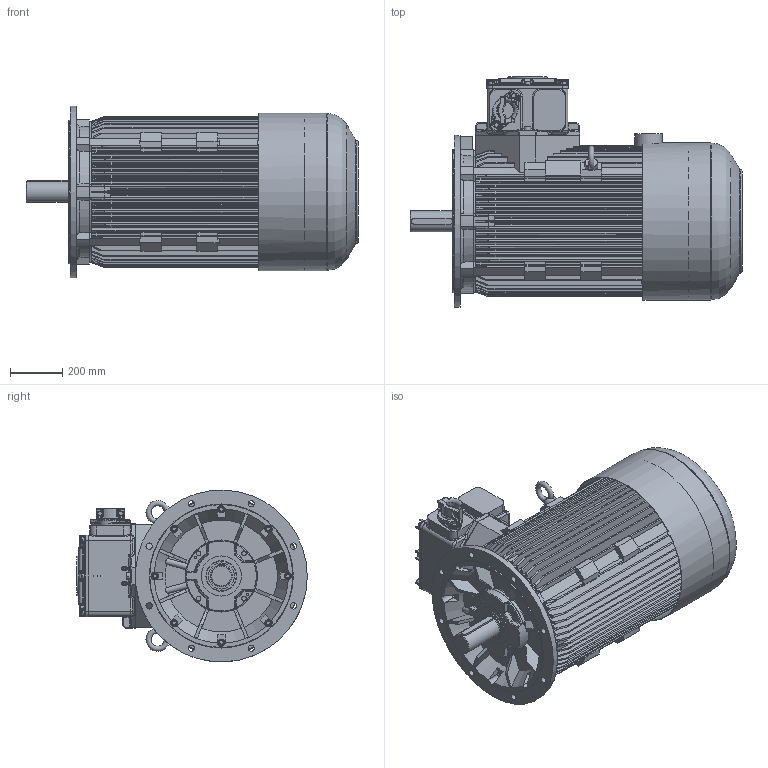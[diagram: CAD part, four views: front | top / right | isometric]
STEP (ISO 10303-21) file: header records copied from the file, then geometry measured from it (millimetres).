
FILE_DESCRIPTION(/* description */ ('Unknown'),/* implementation_level */ '2;1');
FILE_NAME(/* name */ 'EcSTKe(b)315S(4,6,8), M(6,8)A-N-IE(2,3)',/* time_stamp */ '2022-04-19T14:25:30+02:00',/* author */ ('Unknown'),/* organization */ ('Unknown'),/* preprocessor_version */ 'ST-DEVELOPER v16.7',/* originating_system */ 'DEX',/* authorisation */ $);
FILE_SCHEMA (('AUTOMOTIVE_DESIGN {1 0 10303 214 3 1 1}'));
Products named in the file (1): EcSTKe(b)315S(4,6,8), M(6,8)A-N-IE(2,3)
Bounding box: 1274.52 x 885 x 659.67 mm (x, y, z)
Volume: 273487755.6 mm3; surface area: 7495539.6 mm2
Topology: 1 solids, 57 shells, 3077 faces, 7824 edges, 4892 vertices
Faces by surface type: plane 1242, cylinder 915, cone 350, torus 303, bspline 200, sphere 67
Full cylindrical faces by diameter (mm): 2.459 x2, 3.2 x2, 4.5 x1, 6 x1, 6.3 x1, 8.16 x4, 8.376 x8, 10 x10, 11 x7, 12 x2, 13.546 x4, 13.835 x6, 14.63 x8, 16 x17, 17.5 x12, 18 x8, 20.752 x4, 24 x20, 26 x8, 50 x2, 62 x1, 67 x1, 80 x1, 81.5 x1, 82 x1, 87 x1, 100 x1, 106 x1, 150 x1, 153.6 x1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
Entity records: 119092 total; most frequent: CARTESIAN_POINT 26351, DIRECTION 14792, ORIENTED_EDGE 14720, EDGE_CURVE 7360, AXIS2_PLACEMENT_3D 5704, VERTEX_POINT 4759, FACE_BOUND 3513, EDGE_LOOP 3494
